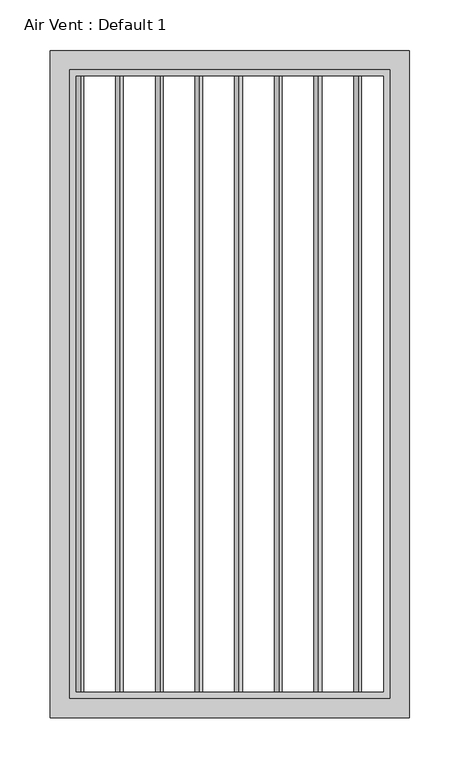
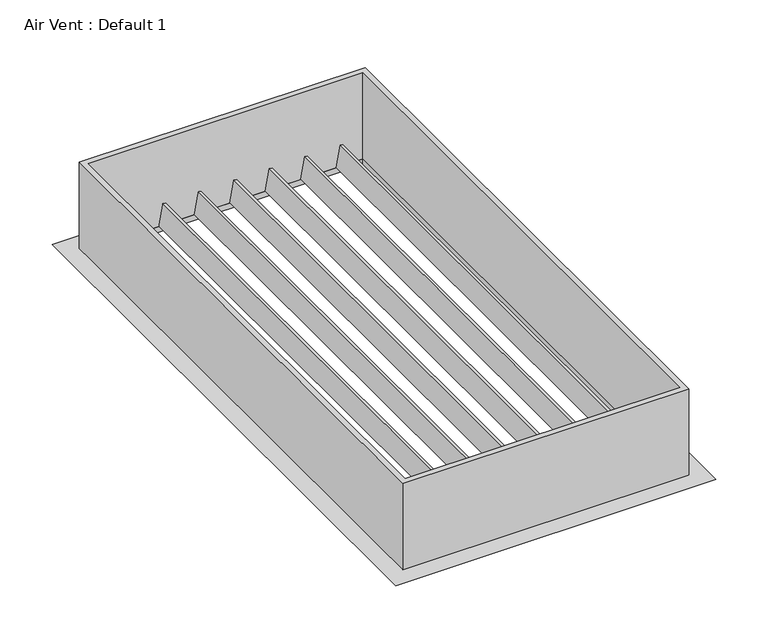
"""IFC4 building model written with IfcOpenShell, lengths in millimetres: proxy geometry, Air Vent : Default 1."""

from ifc_helpers import new_model, si_unit, frame, origin, place, context, project, spatial, polyline, outline, extrude, faceted_brep, source, transform, mapped, element, save


def air_vent_default_1_69f29862(model_context):
    return source(origin(), model_context, "Body", "SolidModel", [
        extrude(outline(polyline([(0.0, -3.1750001), (0.0, 0.0), (609.6, 0.0), (609.6, -3.1750001), (0.0, -3.1750001)])), frame((-113.0846578, -304.8, 2438.951333), z_axis=(0.1736481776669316, 0.0, 0.9848077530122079), x_axis=(0.0, 1.0, 0.0)), (0.0, 0.0, 1.0), 25.4),
        extrude(outline(polyline([(0.0, -3.175), (0.0, 0.0), (609.6, 0.0), (609.6, -3.175), (0.0, -3.175)])), frame((-73.7693155, -304.8, 2438.951333), z_axis=(0.1736481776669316, 0.0, 0.9848077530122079), x_axis=(0.0, 1.0, 0.0)), (0.0, 0.0, 1.0), 25.4),
        extrude(outline(polyline([(0.0, -3.175), (0.0, 0.0), (609.6, 0.0), (609.6, -3.175), (0.0, -3.175)])), frame((-34.4539733, -304.8, 2438.951333), z_axis=(0.1736481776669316, 0.0, 0.9848077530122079), x_axis=(0.0, 1.0, 0.0)), (0.0, 0.0, 1.0), 25.4),
        extrude(outline(polyline([(0.0, -3.175), (0.0, 0.0), (609.6, 0.0), (609.6, -3.175), (0.0, -3.175)])), frame((4.861369, -304.8, 2438.951333), z_axis=(0.1736481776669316, 0.0, 0.9848077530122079), x_axis=(0.0, 1.0, 0.0)), (0.0, 0.0, 1.0), 25.4),
        extrude(outline(polyline([(0.0, -3.175), (0.0, 0.0), (609.6, 0.0), (609.6, -3.175), (0.0, -3.175)])), frame((44.1767112, -304.8, 2438.951333), z_axis=(0.1736481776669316, 0.0, 0.9848077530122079), x_axis=(0.0, 1.0, 0.0)), (0.0, 0.0, 1.0), 25.4),
        extrude(outline(polyline([(0.0, -3.175), (0.0, 0.0), (609.6, 0.0), (609.6, -3.175), (0.0, -3.175)])), frame((83.4920535, -304.8, 2438.951333), z_axis=(0.1736481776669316, 0.0, 0.9848077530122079), x_axis=(0.0, 1.0, 0.0)), (0.0, 0.0, 1.0), 25.4),
        extrude(outline(polyline([(0.0, -3.175), (0.0, 0.0), (609.6, 0.0), (609.6, -3.175), (0.0, -3.175)])), frame((122.8073957, -304.8, 2438.951333), z_axis=(0.1736481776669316, 0.0, 0.9848077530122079), x_axis=(0.0, 1.0, 0.0)), (0.0, 0.0, 1.0), 25.4),
        extrude(outline(polyline([(0.0, -3.175), (0.0, 0.0), (609.6, 0.0), (609.6, -3.175), (0.0, -3.175)])), frame((-152.4, -304.8, 2438.951333), z_axis=(0.1736481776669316, 0.0, 0.9848077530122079), x_axis=(0.0, 1.0, 0.0)), (0.0, 0.0, 1.0), 25.4),
        faceted_brep([(152.4, 304.8, 2438.4), (152.4, 304.8, 2432.05), (152.4, -304.8, 2432.05), (152.4, -304.8, 2438.4), (-152.4, -304.8, 2432.05), (-152.4, -304.8, 2438.4), (-152.4, 304.8, 2432.05), (-152.4, 304.8, 2438.4), (165.1, -317.5, 2432.05), (-165.1, -317.5, 2432.05), (-165.1, 317.5, 2432.05), (165.1, 317.5, 2432.05), (177.8, 330.2, 2438.4), (-177.8, 330.2, 2438.4), (-177.8, -330.2, 2438.4), (177.8, -330.2, 2438.4)], [[[0, 1, 2, 3]], [[3, 2, 4, 5]], [[5, 4, 6, 7]], [[8, 9, 10, 11], [1, 6, 4, 2]], [[12, 13, 14, 15], [3, 5, 7, 0]], [[7, 6, 1, 0]], [[11, 12, 15, 8]], [[8, 15, 14, 9]], [[9, 14, 13, 10]], [[10, 13, 12, 11]]]),
        extrude(outline(polyline([(158.75, 311.15), (158.75, -311.15), (-158.75, -311.15), (-158.75, 311.15), (158.75, 311.15)]), holes=[polyline([(152.4, 304.8), (-152.4, 304.8), (-152.4, -304.8), (152.4, -304.8), (152.4, 304.8)])]), frame((0.0, 0.0, 2438.4), z_axis=(0.0, 0.0, 1.0), x_axis=(1.0, 0.0, 0.0)), (0.0, 0.0, 1.0), 101.6),
    ])


if __name__ == "__main__":
    model = new_model("IFC4")
    model_context = context("Model", 3, world=origin())
    ifc_project = project(units=[si_unit("LENGTHUNIT", "METRE", prefix="MILLI")], contexts=[model_context])
    site = spatial("IfcSite", under=ifc_project)
    building = spatial("IfcBuilding", under=site)
    placement = place(None, origin())
    air_vent_default_1_shape = air_vent_default_1_69f29862(model_context)
    element("IfcBuildingElementProxy", 1, Name="Air Vent : Default 1", ObjectType="Air Vent : Default 1", at=placement, inside=building, context=model_context, shape_type="MappedRepresentation", body=[
        mapped(air_vent_default_1_shape, transform((0.0, 0.0, 0.0), x_axis=(1.0, 0.0, 0.0), y_axis=(0.0, 1.0, 0.0), z_axis=(0.0, 0.0, 1.0))),
    ])
    save(model, "model.ifc")
